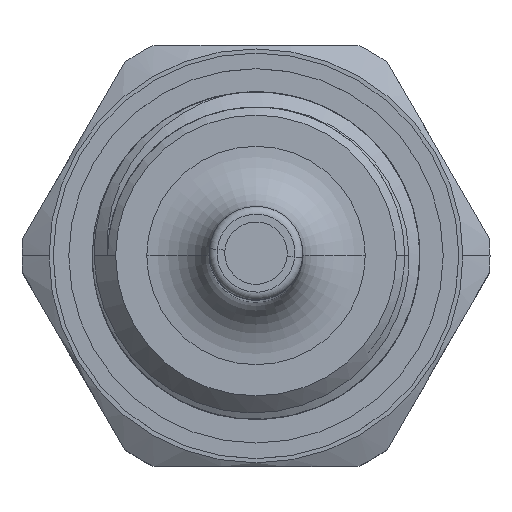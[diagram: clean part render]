
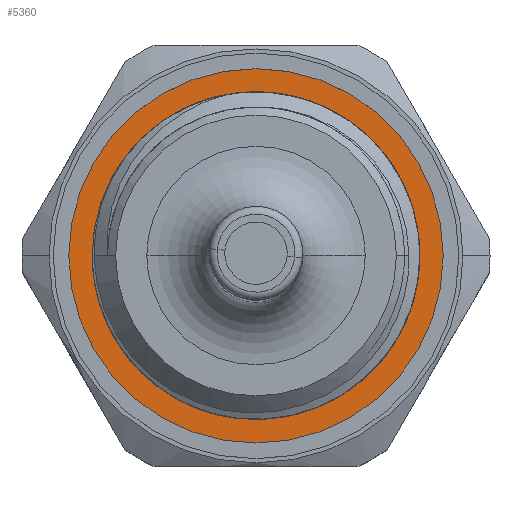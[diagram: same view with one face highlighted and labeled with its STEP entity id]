
A CAD part, top view. The second image highlights one B-rep face of the part: STEP entity #5360.
In plain terms, the highlighted planar face has unit normal (0, 0, 1).
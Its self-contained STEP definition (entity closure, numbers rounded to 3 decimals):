
#4 = CIRCLE ( 'NONE', #8121, 9.25 ) ;
#721 = CARTESIAN_POINT ( 'NONE',  ( -9.25, 0., -15. ) ) ;
#792 = DIRECTION ( 'NONE',  ( 1., 0., 0. ) ) ;
#1253 = DIRECTION ( 'NONE',  ( 0., 0., 1. ) ) ;
#1343 = CARTESIAN_POINT ( 'NONE',  ( -12., 0., -15. ) ) ;
#1438 = CARTESIAN_POINT ( 'NONE',  ( 0., 0., -15. ) ) ;
#1494 = ORIENTED_EDGE ( 'NONE', *, *, #1718, .F. ) ;
#1718 = EDGE_CURVE ( 'NONE', #5126, #6300, #4, .T. ) ;
#2090 = CARTESIAN_POINT ( 'NONE',  ( 0., 0., -15. ) ) ;
#2418 = AXIS2_PLACEMENT_3D ( 'NONE', #4131, #1253, #6907 ) ;
#2746 = EDGE_LOOP ( 'NONE', ( #4412, #8232 ) ) ;
#2759 = VERTEX_POINT ( 'NONE', #1343 ) ;
#2794 = DIRECTION ( 'NONE',  ( 0., 0., 1. ) ) ;
#2840 = EDGE_CURVE ( 'NONE', #6300, #5126, #9009, .T. ) ;
#3211 = AXIS2_PLACEMENT_3D ( 'NONE', #2090, #4376, #4912 ) ;
#3719 = DIRECTION ( 'NONE',  ( 0., 0., 1. ) ) ;
#3810 = AXIS2_PLACEMENT_3D ( 'NONE', #1438, #2794, #792 ) ;
#4072 = AXIS2_PLACEMENT_3D ( 'NONE', #5084, #3719, #6528 ) ;
#4131 = CARTESIAN_POINT ( 'NONE',  ( 0., 0., -15. ) ) ;
#4343 = DIRECTION ( 'NONE',  ( 0., 0., 1. ) ) ;
#4372 = CARTESIAN_POINT ( 'NONE',  ( 12., 0., -15. ) ) ;
#4376 = DIRECTION ( 'NONE',  ( 0., 0., 1. ) ) ;
#4412 = ORIENTED_EDGE ( 'NONE', *, *, #4633, .T. ) ;
#4570 = EDGE_CURVE ( 'NONE', #2759, #8166, #6605, .T. ) ;
#4633 = EDGE_CURVE ( 'NONE', #8166, #2759, #5865, .T. ) ;
#4912 = DIRECTION ( 'NONE',  ( 1., 0., 0. ) ) ;
#4973 = DIRECTION ( 'NONE',  ( 1., 0., 0. ) ) ;
#5084 = CARTESIAN_POINT ( 'NONE',  ( 0., 0., -15. ) ) ;
#5126 = VERTEX_POINT ( 'NONE', #721 ) ;
#5360 = ADVANCED_FACE ( 'NONE', ( #5997, #7220 ), #8797, .T. ) ;
#5677 = CARTESIAN_POINT ( 'NONE',  ( 9.25, 0., -15. ) ) ;
#5830 = EDGE_LOOP ( 'NONE', ( #1494, #8281 ) ) ;
#5865 = CIRCLE ( 'NONE', #3211, 12. ) ;
#5997 = FACE_BOUND ( 'NONE', #5830, .T. ) ;
#6300 = VERTEX_POINT ( 'NONE', #5677 ) ;
#6528 = DIRECTION ( 'NONE',  ( 1., 0., 0. ) ) ;
#6605 = CIRCLE ( 'NONE', #3810, 12. ) ;
#6907 = DIRECTION ( 'NONE',  ( 1., 0., 0. ) ) ;
#7220 = FACE_OUTER_BOUND ( 'NONE', #2746, .T. ) ;
#8121 = AXIS2_PLACEMENT_3D ( 'NONE', #9098, #4343, #4973 ) ;
#8166 = VERTEX_POINT ( 'NONE', #4372 ) ;
#8232 = ORIENTED_EDGE ( 'NONE', *, *, #4570, .T. ) ;
#8281 = ORIENTED_EDGE ( 'NONE', *, *, #2840, .F. ) ;
#8797 = PLANE ( 'NONE',  #4072 ) ;
#9009 = CIRCLE ( 'NONE', #2418, 9.25 ) ;
#9098 = CARTESIAN_POINT ( 'NONE',  ( 0., 0., -15. ) ) ;
